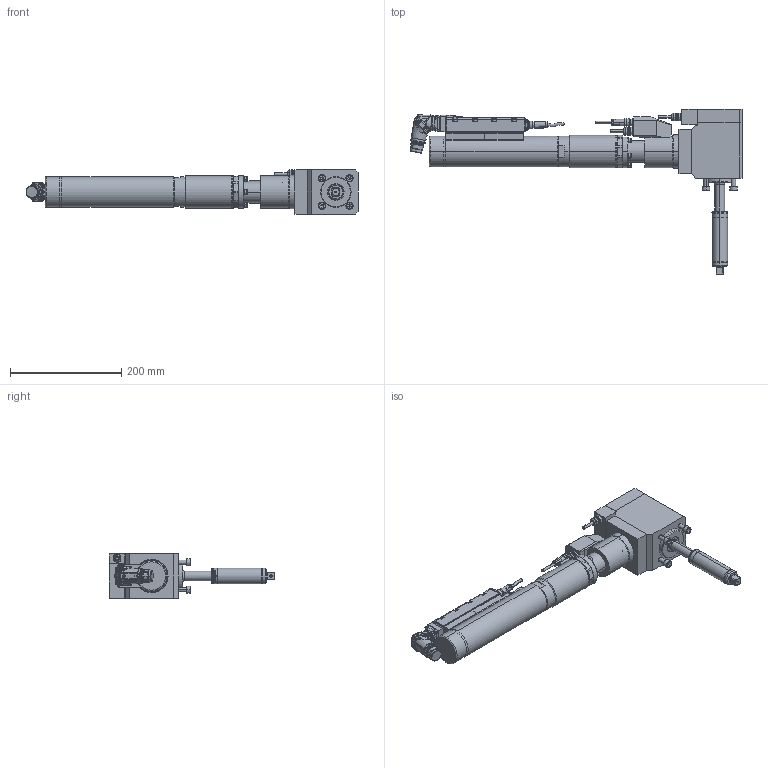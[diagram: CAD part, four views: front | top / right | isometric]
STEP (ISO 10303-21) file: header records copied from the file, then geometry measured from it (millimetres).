
FILE_DESCRIPTION (( 'STEP AP214' ), '1' );
FILE_NAME ('70082586_ESX213DRXWX140AWDX250-140.STEP', '2026-04-13T07:56:21', ( '' ), ( '' ), 'SwSTEP 2.0', 'SolidWorks 2020', '' );
FILE_SCHEMA (( 'AUTOMOTIVE_DESIGN' ));
Length unit declared in the file: millimetre
Products named in the file (1): 70082586_ESX213DRXWX140AWDX250-140
Bounding box: 597.96 x 298 x 80 mm (x, y, z)
Volume: 2605769.7 mm3; surface area: 265991.6 mm2
Topology: 13 solids, 14 shells, 3344 faces, 8601 edges, 5456 vertices
Faces by surface type: plane 1362, cylinder 991, cone 536, bspline 312, torus 137, sphere 6
Entity records: 151395 total; most frequent: CARTESIAN_POINT 36371, ORIENTED_EDGE 17030, DIRECTION 15381, EDGE_CURVE 8515, AXIS2_PLACEMENT_3D 5809, VERTEX_POINT 5454, VECTOR 3763, LINE 3763
